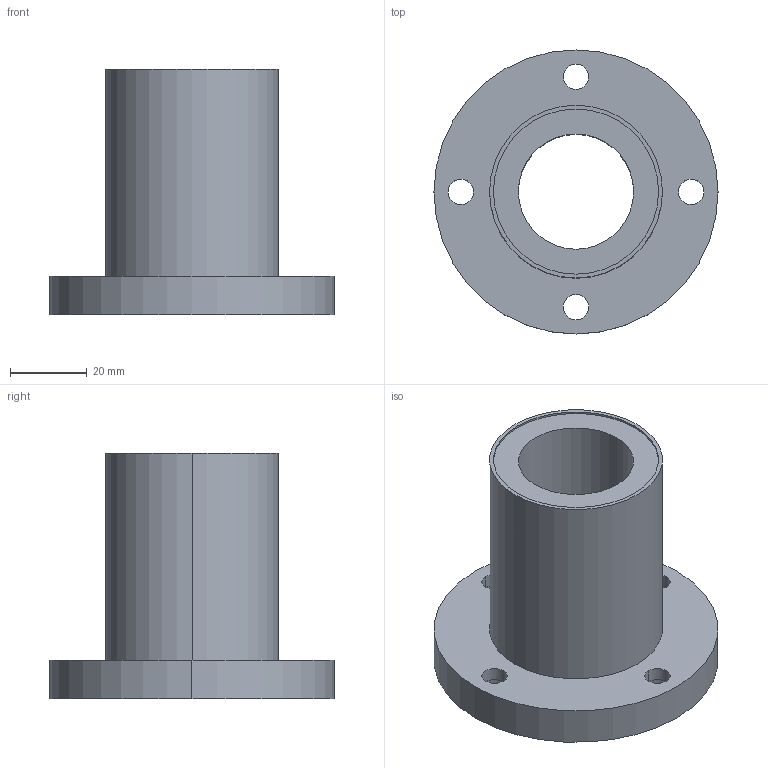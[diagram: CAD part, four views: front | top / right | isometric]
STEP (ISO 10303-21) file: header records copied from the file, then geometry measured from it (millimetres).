
FILE_DESCRIPTION((''),'2;1');
FILE_NAME('C:\Documents and Settings\ｿﾀﾀ蠑ｷ1\ｹﾙﾅﾁ ﾈｭｸ饅\ｺﾎﾇｰﾆﾄﾀﾏ\ﾁｦﾇｰ\LMF__UU\LMF30UU.stp','2005-06-15T09:38:24',('ｿﾀﾀ蠑ｷ1'),(''),'Autodesk Inventor 9','Autodesk Inventor 9','');
FILE_SCHEMA(('AUTOMOTIVE_DESIGN { 1 0 10303 214 1 1 1 1 }'));
Length unit declared in the file: millimetre
Products named in the file (1): LMF__
Bounding box: 74 x 74 x 64 mm (x, y, z)
Volume: 79841.6 mm3; surface area: 24140.6 mm2
Topology: 1 solids, 1 shells, 38 faces, 84 edges, 56 vertices
Faces by surface type: cylinder 28, plane 10
Entity records: 1127 total; most frequent: DIRECTION 218, CARTESIAN_POINT 179, ORIENTED_EDGE 168, AXIS2_PLACEMENT_3D 95, EDGE_CURVE 84, VERTEX_POINT 56, CIRCLE 56, EDGE_LOOP 56
